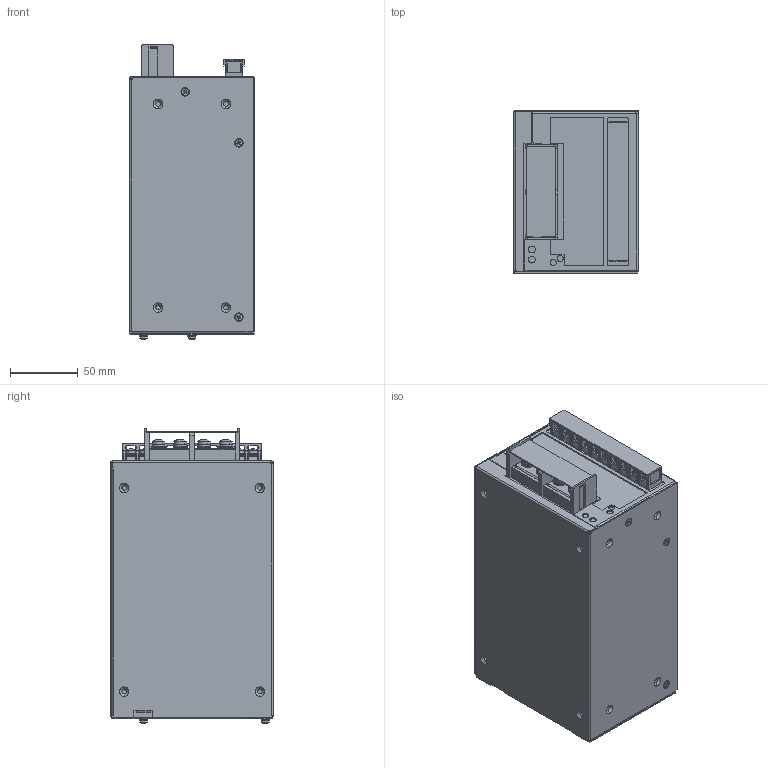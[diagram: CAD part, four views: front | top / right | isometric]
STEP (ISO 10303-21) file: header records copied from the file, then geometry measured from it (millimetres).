
FILE_DESCRIPTION (( 'STEP AP214' ), '1' );
FILE_NAME ('JWS240P_OUTLINE.STEP', '2006-10-10T05:07:35', ( ' ' ), ( ' ' ), 'SwSTEP 2.0', 'SolidWorks 2006104', '' );
FILE_SCHEMA (( 'AUTOMOTIVE_DESIGN' ));
Length unit declared in the file: millimetre
Products named in the file (1): JWS240P_OUTLINE
Bounding box: 92 x 120 x 217.45 mm (x, y, z)
Volume: 2105375.3 mm3; surface area: 134587.5 mm2
Topology: 4 solids, 45 shells, 2206 faces, 5651 edges, 3552 vertices
Faces by surface type: plane 1414, cylinder 431, cone 257, torus 64, sphere 40
Entity records: 90838 total; most frequent: CARTESIAN_POINT 11949, DIRECTION 11739, ORIENTED_EDGE 11222, EDGE_CURVE 5611, AXIS2_PLACEMENT_3D 4104, VERTEX_POINT 3552, VECTOR 3531, LINE 3531
